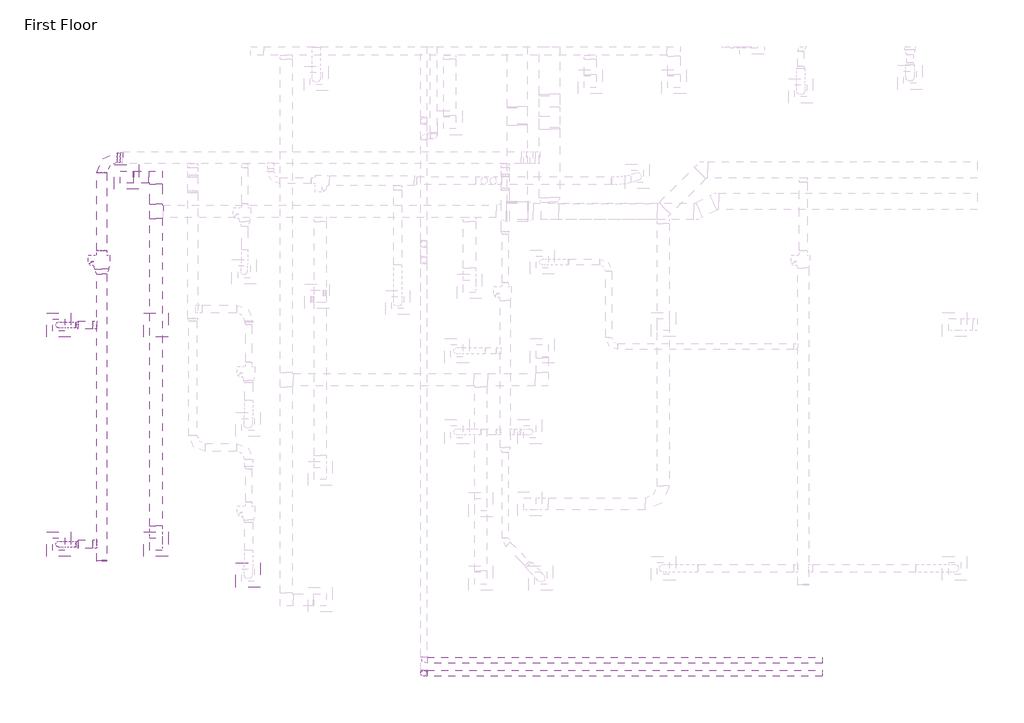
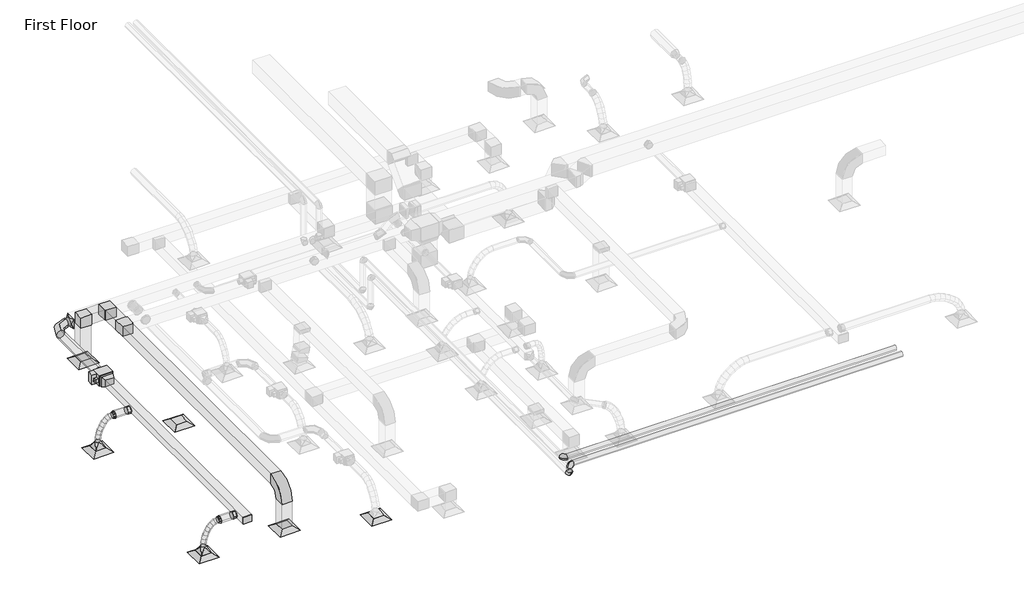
# One storey, part 1 of 61: 14 duct fittings, 12 duct segments, 6 air terminals, 3 pipe fittings, 3 pipe segments, 1 proxy.
"""IFC4 building model written with IfcOpenShell, lengths in millimetres."""

from ifc_helpers import new_model, si_unit, point, frame, frame_2d, origin, place, context, project, spatial, polyline, circle_curve, ellipse_curve, trimmed, segment, composite_curve, outline, extrude, transform, mapped, element, save
from ifc_brep_helpers import plane_surface, cylinder_surface, advanced_brep
from components import m_exhaust_grill_er_600_x_600_face_300_x_300_connection_ff221211, m_vav_unit_single_duct_250_mm_b14a1009, m_rectangular_elbow_mitered_standard_8eee5933, m_rectangular_elbow_radius_1_5_w_86011e9f, m_rectangular_endcap_standard_ecd4e432, m_rectangular_tee_standard_bf2a2b7f, m_rectangular_transition_angle_45_degree_a6690b9c, m_rectangular_to_round_transition_angle_45_degree_8f201c83, m_rectangular_to_round_transition_angle_45_degree_5bab159d, m_round_elbow_1_5_d_4a9a621c, m_round_takeoff_standard_8efdd074, m_round_transition_angle_45_degree_6d7b59ce, m_elbow_generic_standard_1652de39

model = new_model("IFC4")

# Units and contexts
model_context = context("Model", 3, world=origin())
ifc_project = project(units=[si_unit("LENGTHUNIT", "METRE", prefix="MILLI")], contexts=[model_context])

# Site, building, storey
site = spatial("IfcSite", under=ifc_project)
building = spatial("IfcBuilding", under=site)
storey = spatial("IfcBuildingStorey", under=building, Name="First Floor", Elevation=0.0)

# Air terminals
placement = place(None, origin())
m_exhaust_grill_er_600_x_600_face_300_x_300_connection_shape = m_exhaust_grill_er_600_x_600_face_300_x_300_connection_ff221211(model_context)
element("IfcAirTerminal", 1, ObjectType="M_Return Register : RR-600 x 600 Face 300 x 300 Connection", at=placement, inside=storey, context=model_context, shape_type="MappedRepresentation", body=[
    mapped(m_exhaust_grill_er_600_x_600_face_300_x_300_connection_shape, transform((-48781.3815051, 7725.6415931, 2680.0), x_axis=(1.0, 0.0, 0.0), y_axis=(0.0, 1.0, 0.0), z_axis=(0.0, 0.0, 1.0))),
])
element("IfcAirTerminal", 2, ObjectType="M_Return Register : RR-600 x 600 Face 300 x 300 Connection", at=placement, inside=storey, context=model_context, shape_type="MappedRepresentation", body=[
    mapped(m_exhaust_grill_er_600_x_600_face_300_x_300_connection_shape, transform((-48781.3815051, 2314.9069896, 2680.0), x_axis=(1.0, 0.0, 0.0), y_axis=(0.0, 1.0, 0.0), z_axis=(0.0, 0.0, 1.0))),
])
element("IfcAirTerminal", 3, ObjectType="M_Return Register : RR-600 x 600 Face 300 x 300 Connection", at=placement, inside=storey, context=model_context, shape_type="MappedRepresentation", body=[
    mapped(m_exhaust_grill_er_600_x_600_face_300_x_300_connection_shape, transform((-49507.3793889, 11382.4261895, 2680.0), x_axis=(1.0, 0.0, 0.0), y_axis=(0.0, 1.0, 0.0), z_axis=(0.0, 0.0, 1.0))),
])
element("IfcAirTerminal", 4, ObjectType="M_Supply Diffuser : SD-600 x 600 Face 300 x 300 Connection", at=placement, inside=storey, context=model_context, shape_type="MappedRepresentation", body=[
    mapped(m_exhaust_grill_er_600_x_600_face_300_x_300_connection_shape, transform((-51180.5120646, 2314.9069896, 2680.0), x_axis=(1.0, 0.0, 0.0), y_axis=(0.0, 1.0, 0.0), z_axis=(0.0, 0.0, 1.0))),
])
element("IfcAirTerminal", 5, ObjectType="M_Supply Diffuser : SD-600 x 600 Face 300 x 300 Connection", at=placement, inside=storey, context=model_context, shape_type="MappedRepresentation", body=[
    mapped(m_exhaust_grill_er_600_x_600_face_300_x_300_connection_shape, transform((-51180.5120646, 7725.6415931, 2680.0), x_axis=(1.0, 0.0, 0.0), y_axis=(0.0, 1.0, 0.0), z_axis=(0.0, 0.0, 1.0))),
])
element("IfcAirTerminal", 6, ObjectType="M_Supply Diffuser : SD-600 x 600 Face 300 x 300 Connection", at=placement, inside=storey, context=model_context, shape_type="MappedRepresentation", body=[
    mapped(m_exhaust_grill_er_600_x_600_face_300_x_300_connection_shape, transform((-46507.9513831, 1552.8513394, 2680.0), x_axis=(1.0, 0.0, 0.0), y_axis=(0.0, 1.0, 0.0), z_axis=(0.0, 0.0, 1.0))),
])

# Proxy
m_vav_unit_single_duct_250_mm_shape = m_vav_unit_single_duct_250_mm_b14a1009(model_context)
element("IfcBuildingElementProxy", 7, Name="M_VAV Unit - Single Duct : 250 mm", ObjectType="M_VAV Unit - Single Duct : 250 mm", at=placement, inside=storey, context=model_context, shape_type="MappedRepresentation", body=[
    mapped(m_vav_unit_single_duct_250_mm_shape, transform((-50117.67633, 9458.7329872, 3500.05), x_axis=(0.0, -1.0000000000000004, 0.0), y_axis=(1.0000000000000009, 0.0, 0.0), z_axis=(0.0, 0.0, 1.0000000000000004))),
])

# Duct fittings
m_rectangular_elbow_mitered_standard_shape = m_rectangular_elbow_mitered_standard_8eee5933(model_context)
element("IfcDuctFitting", 8, ObjectType="M_Rectangular Elbow - Mitered : Standard", at=placement, inside=storey, context=model_context, shape_type="MappedRepresentation", body=[
    mapped(m_rectangular_elbow_mitered_standard_shape, transform((-49507.3793889, 11382.4261895, 4000.0), x_axis=(0.0, 0.0, 1.0), y_axis=(1.0, 0.0, 0.0), z_axis=(0.0, 1.0, 0.0))),
])
element("IfcDuctFitting", 9, ObjectType="M_Rectangular Elbow - Mitered : Standard", at=placement, inside=storey, context=model_context, shape_type="MappedRepresentation", body=[
    mapped(m_rectangular_elbow_mitered_standard_shape, transform((-48781.3815051, 11382.4261895, 4000.0), x_axis=(0.0, 1.0, 0.0), y_axis=(-1.0, 0.0, 0.0), z_axis=(0.0, 0.0, 1.0))),
])
m_rectangular_elbow_radius_1_5_w_shape = m_rectangular_elbow_radius_1_5_w_86011e9f(model_context)
element("IfcDuctFitting", 10, ObjectType="M_Rectangular Elbow - Radius : 1.5 W", at=placement, inside=storey, context=model_context, shape_type="MappedRepresentation", body=[
    mapped(m_rectangular_elbow_radius_1_5_w_shape, transform((-48781.3815051, 2314.9069896, 4000.0), x_axis=(0.0, 0.0, 1.0), y_axis=(0.0, 1.0, 0.0), z_axis=(-1.0, 0.0, 0.0))),
])
m_rectangular_endcap_standard_shape = m_rectangular_endcap_standard_ecd4e432(model_context)
element("IfcDuctFitting", 11, ObjectType="M_Rectangular Endcap : Standard", at=placement, inside=storey, context=model_context, shape_type="MappedRepresentation", body=[
    mapped(m_rectangular_endcap_standard_shape, transform((-50117.67633, 1915.9329872, 3669.1), x_axis=(0.0, -1.0, 0.0), y_axis=(1.0, 0.0, 0.0), z_axis=(0.0, 0.0, 1.0))),
])
m_rectangular_tee_standard_shape = m_rectangular_tee_standard_bf2a2b7f(model_context)
element("IfcDuctFitting", 12, ObjectType="M_Rectangular Tee : Standard", at=placement, inside=storey, context=model_context, shape_type="MappedRepresentation", body=[
    mapped(m_rectangular_tee_standard_shape, transform((-48781.3815051, 10534.5124787, 4000.0), x_axis=(0.0, 1.0, 0.0), y_axis=(-1.0, 0.0, 0.0), z_axis=(0.0, 0.0, 1.0))),
])
m_rectangular_transition_angle_45_degree_shape = m_rectangular_transition_angle_45_degree_a6690b9c(model_context)
element("IfcDuctFitting", 13, ObjectType="M_Rectangular Transition - Angle : 45 Degree", at=placement, inside=storey, context=model_context, shape_type="MappedRepresentation", body=[
    mapped(m_rectangular_transition_angle_45_degree_shape, transform((-50117.67633, 9102.9329872, 3669.1), x_axis=(0.0, -1.0, 0.0), y_axis=(1.0, 0.0, 0.0), z_axis=(0.0, 0.0, 1.0))),
])
m_rectangular_to_round_transition_angle_45_degree_shape = m_rectangular_to_round_transition_angle_45_degree_8f201c83(model_context)
element("IfcDuctFitting", 14, ObjectType="M_Rectangular to Round Transition - Angle : 45 Degree", at=placement, inside=storey, context=model_context, shape_type="MappedRepresentation", body=[
    mapped(m_rectangular_to_round_transition_angle_45_degree_shape, transform((-51180.5120646, 7725.6415931, 2781.6), x_axis=(0.0, 0.0, 1.0), y_axis=(1.0, 0.0, 0.0), z_axis=(0.0, 1.0, 0.0))),
])
element("IfcDuctFitting", 15, ObjectType="M_Rectangular to Round Transition - Angle : 45 Degree", at=placement, inside=storey, context=model_context, shape_type="MappedRepresentation", body=[
    mapped(m_rectangular_to_round_transition_angle_45_degree_shape, transform((-51180.5120646, 2314.9069896, 2781.6), x_axis=(0.0, 0.0, 1.0), y_axis=(1.0, 0.0, 0.0), z_axis=(0.0, 1.0, 0.0))),
])
m_rectangular_to_round_transition_angle_45_degree_2_shape = m_rectangular_to_round_transition_angle_45_degree_5bab159d(model_context)
element("IfcDuctFitting", 16, ObjectType="M_Rectangular to Round Transition - Angle : 45 Degree", at=placement, inside=storey, context=model_context, shape_type="MappedRepresentation", body=[
    mapped(m_rectangular_to_round_transition_angle_45_degree_2_shape, transform((-49597.8923472, 11861.1885196, 3659.6), x_axis=(-1.0, 0.0, 0.0), y_axis=(0.0, -1.0, 0.0), z_axis=(0.0, 0.0, 1.0))),
])
m_round_elbow_1_5_d_shape = m_round_elbow_1_5_d_4a9a621c(model_context)
element("IfcDuctFitting", 17, ObjectType="M_Round Elbow : 1.5 D", at=placement, inside=storey, context=model_context, shape_type="MappedRepresentation", body=[
    mapped(m_round_elbow_1_5_d_shape, transform((-50116.82633, 11861.1885196, 3659.6), x_axis=(-1.0, 0.0, 0.0), y_axis=(0.0, -0.9999999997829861, -2.083333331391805e-05), z_axis=(0.0, -2.083333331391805e-05, 0.9999999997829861))),
])
m_round_takeoff_standard_shape = m_round_takeoff_standard_8efdd074(model_context)
element("IfcDuctFitting", 18, ObjectType="M_Round Takeoff : Standard", at=placement, inside=storey, context=model_context, shape_type="MappedRepresentation", body=[
    mapped(m_round_takeoff_standard_shape, transform((-50242.67633, 2314.9069896, 3619.1), x_axis=(-1.0, 0.0, 0.0), y_axis=(0.0, 1.0, 0.0), z_axis=(0.0, 0.0, -1.0))),
])
element("IfcDuctFitting", 19, ObjectType="M_Round Takeoff : Standard", at=placement, inside=storey, context=model_context, shape_type="MappedRepresentation", body=[
    mapped(m_round_takeoff_standard_shape, transform((-50242.67633, 7725.6415931, 3619.1), x_axis=(-1.0, 0.0, 0.0), y_axis=(0.0, 1.0, 0.0), z_axis=(0.0, 0.0, -1.0))),
])
m_round_transition_angle_45_degree_shape = m_round_transition_angle_45_degree_6d7b59ce(model_context)
element("IfcDuctFitting", 20, ObjectType="M_Round Transition - Angle : 45 Degree", at=placement, inside=storey, context=model_context, shape_type="MappedRepresentation", body=[
    mapped(m_round_transition_angle_45_degree_shape, transform((-50697.67633, 7725.6415931, 3619.1), x_axis=(-1.0, 0.0, 0.0), y_axis=(0.0, -1.0, 0.0), z_axis=(0.0, 0.0, 1.0))),
])
element("IfcDuctFitting", 21, ObjectType="M_Round Transition - Angle : 45 Degree", at=placement, inside=storey, context=model_context, shape_type="MappedRepresentation", body=[
    mapped(m_round_transition_angle_45_degree_shape, transform((-50697.67633, 2314.9069896, 3619.1), x_axis=(-1.0, 0.0, 0.0), y_axis=(0.0, -1.0, 0.0), z_axis=(0.0, 0.0, 1.0))),
])

# Duct segments
element("IfcDuctSegment", 22, ObjectType="Flex - Round", at=placement, inside=storey, context=model_context, shape_type="AdvancedBrep", body=[
    advanced_brep(
    [(-50758.0316691, 7650.6415931, 3619.1), (-50744.1168379, 7725.6415931, 3545.4021203), (-50758.0316691, 7800.6415931, 3619.1), (-50771.9465003, 7725.6415931, 3692.7978797), (-50850.8945934, 7650.6415931, 3601.5666337), (-50824.2503125, 7725.6415931, 3530.2721901), (-50850.8945934, 7800.6415931, 3601.5666337), (-50877.5388743, 7725.6415931, 3672.8610773), (-51180.5120646, 7650.6415931, 2962.6660172), (-51255.3147163, 7725.6415931, 2968.1032307), (-51180.5120646, 7800.6415931, 2962.6660172), (-51105.7094128, 7725.6415931, 2957.2288037), (-50933.821411, 7650.6415931, 3553.1245836), (-50887.434482, 7725.6415931, 3493.3628911), (-50933.821411, 7800.6415931, 3553.1245836), (-50980.2083401, 7725.6415931, 3612.886276), (-51006.058336, 7650.6415931, 3480.0109227), (-50947.5992499, 7725.6415931, 3432.4679065), (-51006.058336, 7800.6415931, 3480.0109227), (-51064.5174222, 7725.6415931, 3527.553939), (-51066.8515825, 7650.6415931, 3388.4627243), (-51001.2940271, 7725.6415931, 3351.6092519), (-51066.8515825, 7800.6415931, 3388.4627243), (-51132.4091379, 7725.6415931, 3425.3161967), (-51115.4473645, 7650.6415931, 3284.7170614), (-51045.5555953, 7725.6415931, 3257.1165707), (-51115.4473645, 7800.6415931, 3284.7170614), (-51185.3391337, 7725.6415931, 3312.317552), (-51151.0918962, 7650.6415931, 3175.0110071), (-51078.4134534, 7725.6415931, 3155.9872867), (-51151.0918962, 7800.6415931, 3175.0110071), (-51223.7703389, 7725.6415931, 3194.0347275), (-51173.0313915, 7650.6415931, 3065.5816347), (-51098.5698462, 7725.6415931, 3055.4516372), (-51173.0313915, 7800.6415931, 3065.5816347), (-51247.4929368, 7725.6415931, 3075.7116322)],
    [
        (0, 1, circle_curve(frame((-50758.0316691, 7725.6415931, 3619.1), z_axis=(0.9826383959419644, 0.0, 0.18553108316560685), x_axis=(0.0, -1.0, 0.0)), 75.0)),
        (1, 2, circle_curve(frame((-50758.0316691, 7725.6415931, 3619.1), z_axis=(0.9826383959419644, 0.0, 0.18553108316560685), x_axis=(0.0, -1.0, 0.0)), 75.0)),
        (2, 3, circle_curve(frame((-50758.0316691, 7725.6415931, 3619.1), z_axis=(0.9826383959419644, 0.0, 0.18553108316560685), x_axis=(0.0, -1.0, 0.0)), 75.0)),
        (3, 0, circle_curve(frame((-50758.0316691, 7725.6415931, 3619.1), z_axis=(0.9826383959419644, 0.0, 0.18553108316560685), x_axis=(0.0, -1.0, 0.0)), 75.0)),
        (0, 4),
        (4, 5, ellipse_curve(frame((-50850.8945934, 7725.6415931, 3601.5666337), z_axis=(0.9367222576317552, 0.0, 0.3500734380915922), x_axis=(0.3500734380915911, 0.0, -0.9367222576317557)), 76.1105472, 75.0)),
        (5, 1),
        (5, 6, ellipse_curve(frame((-50850.8945934, 7725.6415931, 3601.5666337), z_axis=(0.9367222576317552, 0.0, 0.3500734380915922), x_axis=(0.3500734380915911, 0.0, -0.9367222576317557)), 76.1105472, 75.0)),
        (6, 2),
        (6, 7, ellipse_curve(frame((-50850.8945934, 7725.6415931, 3601.5666337), z_axis=(0.9367222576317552, 0.0, 0.3500734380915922), x_axis=(0.3500734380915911, 0.0, -0.9367222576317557)), 76.1105472, 75.0)),
        (7, 3),
        (7, 4, ellipse_curve(frame((-50850.8945934, 7725.6415931, 3601.5666337), z_axis=(0.9367222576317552, 0.0, 0.3500734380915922), x_axis=(0.3500734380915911, 0.0, -0.9367222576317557)), 76.1105472, 75.0)),
        (8, 9, circle_curve(frame((-51180.5120646, 7725.6415931, 2962.6660172), z_axis=(-0.07249617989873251, 0.0, -0.9973686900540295), x_axis=(0.0, -1.0, 0.0)), 75.0)),
        (9, 10, circle_curve(frame((-51180.5120646, 7725.6415931, 2962.6660172), z_axis=(-0.07249617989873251, 0.0, -0.9973686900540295), x_axis=(0.0, -1.0, 0.0)), 75.0)),
        (10, 11, circle_curve(frame((-51180.5120646, 7725.6415931, 2962.6660172), z_axis=(-0.07249617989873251, 0.0, -0.9973686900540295), x_axis=(0.0, -1.0, 0.0)), 75.0)),
        (11, 8, circle_curve(frame((-51180.5120646, 7725.6415931, 2962.6660172), z_axis=(-0.07249617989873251, 0.0, -0.9973686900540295), x_axis=(0.0, -1.0, 0.0)), 75.0)),
        (4, 12),
        (12, 13, ellipse_curve(frame((-50933.821411, 7725.6415931, 3553.1245836), z_axis=(0.7899564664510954, 0.0, 0.6131629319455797), x_axis=(0.6131629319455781, 0.0, -0.7899564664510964)), 75.6518808, 75.0)),
        (13, 5),
        (13, 14, ellipse_curve(frame((-50933.821411, 7725.6415931, 3553.1245836), z_axis=(0.7899564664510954, 0.0, 0.6131629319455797), x_axis=(0.6131629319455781, 0.0, -0.7899564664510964)), 75.6518808, 75.0)),
        (14, 6),
        (14, 15, ellipse_curve(frame((-50933.821411, 7725.6415931, 3553.1245836), z_axis=(0.7899564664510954, 0.0, 0.6131629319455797), x_axis=(0.6131629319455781, 0.0, -0.7899564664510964)), 75.6518808, 75.0)),
        (15, 7),
        (15, 12, ellipse_curve(frame((-50933.821411, 7725.6415931, 3553.1245836), z_axis=(0.7899564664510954, 0.0, 0.6131629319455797), x_axis=(0.6131629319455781, 0.0, -0.7899564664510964)), 75.6518808, 75.0)),
        (12, 16),
        (16, 17, ellipse_curve(frame((-51006.058336, 7725.6415931, 3480.0109227), z_axis=(0.6309523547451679, 0.0, 0.7758215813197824), x_axis=(0.7758215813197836, 0.0, -0.6309523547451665)), 75.3511987, 75.0)),
        (17, 13),
        (17, 18, ellipse_curve(frame((-51006.058336, 7725.6415931, 3480.0109227), z_axis=(0.6309523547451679, 0.0, 0.7758215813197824), x_axis=(0.7758215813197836, 0.0, -0.6309523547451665)), 75.3511987, 75.0)),
        (18, 14),
        (18, 19, ellipse_curve(frame((-51006.058336, 7725.6415931, 3480.0109227), z_axis=(0.6309523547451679, 0.0, 0.7758215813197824), x_axis=(0.7758215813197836, 0.0, -0.6309523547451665)), 75.3511987, 75.0)),
        (19, 15),
        (19, 16, ellipse_curve(frame((-51006.058336, 7725.6415931, 3480.0109227), z_axis=(0.6309523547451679, 0.0, 0.7758215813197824), x_axis=(0.7758215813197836, 0.0, -0.6309523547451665)), 75.3511987, 75.0)),
        (16, 20),
        (20, 21, ellipse_curve(frame((-51066.8515825, 7725.6415931, 3388.4627243), z_axis=(0.49003241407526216, 0.0, 0.871704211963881), x_axis=(0.8717042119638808, 0.0, -0.49003241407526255)), 75.2061932, 75.0)),
        (21, 17),
        (21, 22, ellipse_curve(frame((-51066.8515825, 7725.6415931, 3388.4627243), z_axis=(0.49003241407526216, 0.0, 0.871704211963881), x_axis=(0.8717042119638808, 0.0, -0.49003241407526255)), 75.2061932, 75.0)),
        (22, 18),
        (22, 23, ellipse_curve(frame((-51066.8515825, 7725.6415931, 3388.4627243), z_axis=(0.49003241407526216, 0.0, 0.871704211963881), x_axis=(0.8717042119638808, 0.0, -0.49003241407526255)), 75.2061932, 75.0)),
        (23, 19),
        (23, 20, ellipse_curve(frame((-51066.8515825, 7725.6415931, 3388.4627243), z_axis=(0.49003241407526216, 0.0, 0.871704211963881), x_axis=(0.8717042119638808, 0.0, -0.49003241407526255)), 75.2061932, 75.0)),
        (20, 24),
        (24, 25, ellipse_curve(frame((-51115.4473645, 7725.6415931, 3284.7170614), z_axis=(0.36730048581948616, 0.0, 0.9301023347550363), x_axis=(0.930102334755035, 0.0, -0.3673004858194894)), 75.1441713, 75.0)),
        (25, 21),
        (25, 26, ellipse_curve(frame((-51115.4473645, 7725.6415931, 3284.7170614), z_axis=(0.36730048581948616, 0.0, 0.9301023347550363), x_axis=(0.930102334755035, 0.0, -0.3673004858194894)), 75.1441713, 75.0)),
        (26, 22),
        (26, 27, ellipse_curve(frame((-51115.4473645, 7725.6415931, 3284.7170614), z_axis=(0.36730048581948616, 0.0, 0.9301023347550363), x_axis=(0.930102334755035, 0.0, -0.3673004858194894)), 75.1441713, 75.0)),
        (27, 23),
        (27, 24, ellipse_curve(frame((-51115.4473645, 7725.6415931, 3284.7170614), z_axis=(0.36730048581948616, 0.0, 0.9301023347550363), x_axis=(0.930102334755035, 0.0, -0.3673004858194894)), 75.1441713, 75.0)),
        (24, 28),
        (28, 29, ellipse_curve(frame((-51151.0918962, 7725.6415931, 3175.0110071), z_axis=(0.2532210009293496, 0.0, 0.967408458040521), x_axis=(0.9674084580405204, 0.0, -0.2532210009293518)), 75.1269457, 75.0)),
        (29, 25),
        (29, 30, ellipse_curve(frame((-51151.0918962, 7725.6415931, 3175.0110071), z_axis=(0.2532210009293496, 0.0, 0.967408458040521), x_axis=(0.9674084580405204, 0.0, -0.2532210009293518)), 75.1269457, 75.0)),
        (30, 26),
        (30, 31, ellipse_curve(frame((-51151.0918962, 7725.6415931, 3175.0110071), z_axis=(0.2532210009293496, 0.0, 0.967408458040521), x_axis=(0.9674084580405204, 0.0, -0.2532210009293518)), 75.1269457, 75.0)),
        (31, 27),
        (31, 28, ellipse_curve(frame((-51151.0918962, 7725.6415931, 3175.0110071), z_axis=(0.2532210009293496, 0.0, 0.967408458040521), x_axis=(0.9674084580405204, 0.0, -0.2532210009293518)), 75.1269457, 75.0)),
        (28, 32),
        (32, 33, ellipse_curve(frame((-51173.0313915, 7725.6415931, 3065.5816347), z_axis=(0.13480162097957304, 0.0, 0.9908726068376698), x_axis=(0.9908726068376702, 0.0, -0.13480162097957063)), 75.1474456, 75.0)),
        (33, 29),
        (33, 34, ellipse_curve(frame((-51173.0313915, 7725.6415931, 3065.5816347), z_axis=(0.13480162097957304, 0.0, 0.9908726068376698), x_axis=(0.9908726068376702, 0.0, -0.13480162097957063)), 75.1474456, 75.0)),
        (34, 30),
        (34, 35, ellipse_curve(frame((-51173.0313915, 7725.6415931, 3065.5816347), z_axis=(0.13480162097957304, 0.0, 0.9908726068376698), x_axis=(0.9908726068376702, 0.0, -0.13480162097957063)), 75.1474456, 75.0)),
        (35, 31),
        (35, 32, ellipse_curve(frame((-51173.0313915, 7725.6415931, 3065.5816347), z_axis=(0.13480162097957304, 0.0, 0.9908726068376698), x_axis=(0.9908726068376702, 0.0, -0.13480162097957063)), 75.1474456, 75.0)),
        (32, 8),
        (11, 33),
        (10, 34),
        (9, 35),
    ],
    [
        plane_surface(frame((-50758.0316691, 7800.6415931, 3619.1), z_axis=(0.9826383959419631, 0.0, 0.1855310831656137), x_axis=(0.1855310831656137, 0.0, -0.9826383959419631))),
        cylinder_surface(frame((-50758.0316691, 7725.6415931, 3619.1), z_axis=(0.9826383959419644, 0.0, 0.18553108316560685), x_axis=(0.0, -1.0, 0.0)), 75.0),
        plane_surface(frame((-51180.5120646, 7800.6415931, 2962.6660172), z_axis=(-0.07249617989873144, 0.0, -0.9973686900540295), x_axis=(0.9973686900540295, 0.0, -0.07249617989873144))),
        cylinder_surface(frame((-50850.8945934, 7725.6415931, 3601.5666337), z_axis=(0.8634702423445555, 0.0, 0.5043997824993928), x_axis=(0.0, -1.0, 0.0)), 75.0),
        cylinder_surface(frame((-50933.821411, 7725.6415931, 3553.1245836), z_axis=(0.7028288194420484, 0.0, 0.7113590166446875), x_axis=(0.0, -1.0, 0.0)), 75.0),
        cylinder_surface(frame((-51006.058336, 7725.6415931, 3480.0109227), z_axis=(0.5531943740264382, 0.0, 0.8330522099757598), x_axis=(0.0, -1.0, 0.0)), 75.0),
        cylinder_surface(frame((-51066.8515825, 7725.6415931, 3388.4627243), z_axis=(0.4241834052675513, 0.0, 0.9055763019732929), x_axis=(0.0, -1.0, 0.0)), 75.0),
        cylinder_surface(frame((-51115.4473645, 7725.6415931, 3284.7170614), z_axis=(0.3090081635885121, 0.0, 0.9510593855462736), x_axis=(0.0, -1.0, 0.0)), 75.0),
        cylinder_surface(frame((-51151.0918962, 7725.6415931, 3175.0110071), z_axis=(0.19657807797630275, 0.0, 0.9804881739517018), x_axis=(0.0, -1.0, 0.0)), 75.0),
        cylinder_surface(frame((-51173.0313915, 7725.6415931, 3065.5816347), z_axis=(0.07249617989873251, 0.0, 0.9973686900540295), x_axis=(0.0, -1.0, 0.0)), 75.0),
    ],
    [
        (0, [[1, 2, 3, 4]]),
        (1, [[-1, 5, 6, 7]]),
        (1, [[-2, -7, 8, 9]]),
        (1, [[-3, -9, 10, 11]]),
        (1, [[-4, -11, 12, -5]]),
        (2, [[13, 14, 15, 16]]),
        (3, [[-6, 17, 18, 19]]),
        (3, [[-8, -19, 20, 21]]),
        (3, [[-10, -21, 22, 23]]),
        (3, [[-12, -23, 24, -17]]),
        (4, [[-18, 25, 26, 27]]),
        (4, [[-20, -27, 28, 29]]),
        (4, [[-22, -29, 30, 31]]),
        (4, [[-24, -31, 32, -25]]),
        (5, [[-26, 33, 34, 35]]),
        (5, [[-28, -35, 36, 37]]),
        (5, [[-30, -37, 38, 39]]),
        (5, [[-32, -39, 40, -33]]),
        (6, [[-34, 41, 42, 43]]),
        (6, [[-36, -43, 44, 45]]),
        (6, [[-38, -45, 46, 47]]),
        (6, [[-40, -47, 48, -41]]),
        (7, [[-42, 49, 50, 51]]),
        (7, [[-44, -51, 52, 53]]),
        (7, [[-46, -53, 54, 55]]),
        (7, [[-48, -55, 56, -49]]),
        (8, [[-50, 57, 58, 59]]),
        (8, [[-52, -59, 60, 61]]),
        (8, [[-54, -61, 62, 63]]),
        (8, [[-56, -63, 64, -57]]),
        (9, [[-58, 65, -16, 66]]),
        (9, [[-60, -66, -15, 67]]),
        (9, [[-62, -67, -14, 68]]),
        (9, [[-64, -68, -13, -65]]),
    ],
),
])
element("IfcDuctSegment", 23, ObjectType="Flex - Round", at=placement, inside=storey, context=model_context, shape_type="AdvancedBrep", body=[
    advanced_brep(
    [(-50758.0316691, 2239.9069896, 3619.1), (-50744.1168379, 2314.9069896, 3545.4021203), (-50758.0316691, 2389.9069896, 3619.1), (-50771.9465003, 2314.9069896, 3692.7978797), (-50850.8945934, 2239.9069896, 3601.5666337), (-50824.2503125, 2314.9069896, 3530.2721901), (-50850.8945934, 2389.9069896, 3601.5666337), (-50877.5388743, 2314.9069896, 3672.8610773), (-51180.5120646, 2239.9069896, 2962.6660172), (-51255.3147163, 2314.9069896, 2968.1032307), (-51180.5120646, 2389.9069896, 2962.6660172), (-51105.7094128, 2314.9069896, 2957.2288037), (-50933.821411, 2239.9069896, 3553.1245836), (-50887.434482, 2314.9069896, 3493.3628911), (-50933.821411, 2389.9069896, 3553.1245836), (-50980.2083401, 2314.9069896, 3612.886276), (-51006.058336, 2239.9069896, 3480.0109227), (-50947.5992499, 2314.9069896, 3432.4679065), (-51006.058336, 2389.9069896, 3480.0109227), (-51064.5174222, 2314.9069896, 3527.553939), (-51066.8515825, 2239.9069896, 3388.4627243), (-51001.2940271, 2314.9069896, 3351.6092519), (-51066.8515825, 2389.9069896, 3388.4627243), (-51132.4091379, 2314.9069896, 3425.3161967), (-51115.4473645, 2239.9069896, 3284.7170614), (-51045.5555953, 2314.9069896, 3257.1165707), (-51115.4473645, 2389.9069896, 3284.7170614), (-51185.3391337, 2314.9069896, 3312.317552), (-51151.0918962, 2239.9069896, 3175.0110071), (-51078.4134534, 2314.9069896, 3155.9872867), (-51151.0918962, 2389.9069896, 3175.0110071), (-51223.7703389, 2314.9069896, 3194.0347275), (-51173.0313915, 2239.9069896, 3065.5816347), (-51098.5698462, 2314.9069896, 3055.4516372), (-51173.0313915, 2389.9069896, 3065.5816347), (-51247.4929368, 2314.9069896, 3075.7116322)],
    [
        (0, 1, circle_curve(frame((-50758.0316691, 2314.9069896, 3619.1), z_axis=(0.9826383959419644, 0.0, 0.18553108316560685), x_axis=(0.0, -1.0, 0.0)), 75.0)),
        (1, 2, circle_curve(frame((-50758.0316691, 2314.9069896, 3619.1), z_axis=(0.9826383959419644, 0.0, 0.18553108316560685), x_axis=(0.0, -1.0, 0.0)), 75.0)),
        (2, 3, circle_curve(frame((-50758.0316691, 2314.9069896, 3619.1), z_axis=(0.9826383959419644, 0.0, 0.18553108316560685), x_axis=(0.0, -1.0, 0.0)), 75.0)),
        (3, 0, circle_curve(frame((-50758.0316691, 2314.9069896, 3619.1), z_axis=(0.9826383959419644, 0.0, 0.18553108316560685), x_axis=(0.0, -1.0, 0.0)), 75.0)),
        (0, 4),
        (4, 5, ellipse_curve(frame((-50850.8945934, 2314.9069896, 3601.5666337), z_axis=(0.9367222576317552, 0.0, 0.3500734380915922), x_axis=(0.3500734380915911, 0.0, -0.9367222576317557)), 76.1105472, 75.0)),
        (5, 1),
        (5, 6, ellipse_curve(frame((-50850.8945934, 2314.9069896, 3601.5666337), z_axis=(0.9367222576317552, 0.0, 0.3500734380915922), x_axis=(0.3500734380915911, 0.0, -0.9367222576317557)), 76.1105472, 75.0)),
        (6, 2),
        (6, 7, ellipse_curve(frame((-50850.8945934, 2314.9069896, 3601.5666337), z_axis=(0.9367222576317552, 0.0, 0.3500734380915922), x_axis=(0.3500734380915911, 0.0, -0.9367222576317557)), 76.1105472, 75.0)),
        (7, 3),
        (7, 4, ellipse_curve(frame((-50850.8945934, 2314.9069896, 3601.5666337), z_axis=(0.9367222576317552, 0.0, 0.3500734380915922), x_axis=(0.3500734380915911, 0.0, -0.9367222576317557)), 76.1105472, 75.0)),
        (8, 9, circle_curve(frame((-51180.5120646, 2314.9069896, 2962.6660172), z_axis=(-0.07249617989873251, 0.0, -0.9973686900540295), x_axis=(0.0, -1.0, 0.0)), 75.0)),
        (9, 10, circle_curve(frame((-51180.5120646, 2314.9069896, 2962.6660172), z_axis=(-0.07249617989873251, 0.0, -0.9973686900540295), x_axis=(0.0, -1.0, 0.0)), 75.0)),
        (10, 11, circle_curve(frame((-51180.5120646, 2314.9069896, 2962.6660172), z_axis=(-0.07249617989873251, 0.0, -0.9973686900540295), x_axis=(0.0, -1.0, 0.0)), 75.0)),
        (11, 8, circle_curve(frame((-51180.5120646, 2314.9069896, 2962.6660172), z_axis=(-0.07249617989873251, 0.0, -0.9973686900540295), x_axis=(0.0, -1.0, 0.0)), 75.0)),
        (4, 12),
        (12, 13, ellipse_curve(frame((-50933.821411, 2314.9069896, 3553.1245836), z_axis=(0.7899564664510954, 0.0, 0.6131629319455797), x_axis=(0.6131629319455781, 0.0, -0.7899564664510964)), 75.6518808, 75.0)),
        (13, 5),
        (13, 14, ellipse_curve(frame((-50933.821411, 2314.9069896, 3553.1245836), z_axis=(0.7899564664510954, 0.0, 0.6131629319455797), x_axis=(0.6131629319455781, 0.0, -0.7899564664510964)), 75.6518808, 75.0)),
        (14, 6),
        (14, 15, ellipse_curve(frame((-50933.821411, 2314.9069896, 3553.1245836), z_axis=(0.7899564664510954, 0.0, 0.6131629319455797), x_axis=(0.6131629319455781, 0.0, -0.7899564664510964)), 75.6518808, 75.0)),
        (15, 7),
        (15, 12, ellipse_curve(frame((-50933.821411, 2314.9069896, 3553.1245836), z_axis=(0.7899564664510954, 0.0, 0.6131629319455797), x_axis=(0.6131629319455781, 0.0, -0.7899564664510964)), 75.6518808, 75.0)),
        (12, 16),
        (16, 17, ellipse_curve(frame((-51006.058336, 2314.9069896, 3480.0109227), z_axis=(0.6309523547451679, 0.0, 0.7758215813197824), x_axis=(0.7758215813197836, 0.0, -0.6309523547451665)), 75.3511987, 75.0)),
        (17, 13),
        (17, 18, ellipse_curve(frame((-51006.058336, 2314.9069896, 3480.0109227), z_axis=(0.6309523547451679, 0.0, 0.7758215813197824), x_axis=(0.7758215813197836, 0.0, -0.6309523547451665)), 75.3511987, 75.0)),
        (18, 14),
        (18, 19, ellipse_curve(frame((-51006.058336, 2314.9069896, 3480.0109227), z_axis=(0.6309523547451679, 0.0, 0.7758215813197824), x_axis=(0.7758215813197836, 0.0, -0.6309523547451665)), 75.3511987, 75.0)),
        (19, 15),
        (19, 16, ellipse_curve(frame((-51006.058336, 2314.9069896, 3480.0109227), z_axis=(0.6309523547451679, 0.0, 0.7758215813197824), x_axis=(0.7758215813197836, 0.0, -0.6309523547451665)), 75.3511987, 75.0)),
        (16, 20),
        (20, 21, ellipse_curve(frame((-51066.8515825, 2314.9069896, 3388.4627243), z_axis=(0.49003241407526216, 0.0, 0.871704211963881), x_axis=(0.8717042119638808, 0.0, -0.49003241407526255)), 75.2061932, 75.0)),
        (21, 17),
        (21, 22, ellipse_curve(frame((-51066.8515825, 2314.9069896, 3388.4627243), z_axis=(0.49003241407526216, 0.0, 0.871704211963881), x_axis=(0.8717042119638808, 0.0, -0.49003241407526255)), 75.2061932, 75.0)),
        (22, 18),
        (22, 23, ellipse_curve(frame((-51066.8515825, 2314.9069896, 3388.4627243), z_axis=(0.49003241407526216, 0.0, 0.871704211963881), x_axis=(0.8717042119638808, 0.0, -0.49003241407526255)), 75.2061932, 75.0)),
        (23, 19),
        (23, 20, ellipse_curve(frame((-51066.8515825, 2314.9069896, 3388.4627243), z_axis=(0.49003241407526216, 0.0, 0.871704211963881), x_axis=(0.8717042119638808, 0.0, -0.49003241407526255)), 75.2061932, 75.0)),
        (20, 24),
        (24, 25, ellipse_curve(frame((-51115.4473645, 2314.9069896, 3284.7170614), z_axis=(0.36730048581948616, 0.0, 0.9301023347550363), x_axis=(0.930102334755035, 0.0, -0.3673004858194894)), 75.1441713, 75.0)),
        (25, 21),
        (25, 26, ellipse_curve(frame((-51115.4473645, 2314.9069896, 3284.7170614), z_axis=(0.36730048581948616, 0.0, 0.9301023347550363), x_axis=(0.930102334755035, 0.0, -0.3673004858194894)), 75.1441713, 75.0)),
        (26, 22),
        (26, 27, ellipse_curve(frame((-51115.4473645, 2314.9069896, 3284.7170614), z_axis=(0.36730048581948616, 0.0, 0.9301023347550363), x_axis=(0.930102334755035, 0.0, -0.3673004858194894)), 75.1441713, 75.0)),
        (27, 23),
        (27, 24, ellipse_curve(frame((-51115.4473645, 2314.9069896, 3284.7170614), z_axis=(0.36730048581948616, 0.0, 0.9301023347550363), x_axis=(0.930102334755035, 0.0, -0.3673004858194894)), 75.1441713, 75.0)),
        (24, 28),
        (28, 29, ellipse_curve(frame((-51151.0918962, 2314.9069896, 3175.0110071), z_axis=(0.2532210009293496, 0.0, 0.967408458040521), x_axis=(0.9674084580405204, 0.0, -0.2532210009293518)), 75.1269457, 75.0)),
        (29, 25),
        (29, 30, ellipse_curve(frame((-51151.0918962, 2314.9069896, 3175.0110071), z_axis=(0.2532210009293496, 0.0, 0.967408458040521), x_axis=(0.9674084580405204, 0.0, -0.2532210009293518)), 75.1269457, 75.0)),
        (30, 26),
        (30, 31, ellipse_curve(frame((-51151.0918962, 2314.9069896, 3175.0110071), z_axis=(0.2532210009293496, 0.0, 0.967408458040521), x_axis=(0.9674084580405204, 0.0, -0.2532210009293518)), 75.1269457, 75.0)),
        (31, 27),
        (31, 28, ellipse_curve(frame((-51151.0918962, 2314.9069896, 3175.0110071), z_axis=(0.2532210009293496, 0.0, 0.967408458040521), x_axis=(0.9674084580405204, 0.0, -0.2532210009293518)), 75.1269457, 75.0)),
        (28, 32),
        (32, 33, ellipse_curve(frame((-51173.0313915, 2314.9069896, 3065.5816347), z_axis=(0.13480162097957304, 0.0, 0.9908726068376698), x_axis=(0.9908726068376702, 0.0, -0.13480162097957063)), 75.1474456, 75.0)),
        (33, 29),
        (33, 34, ellipse_curve(frame((-51173.0313915, 2314.9069896, 3065.5816347), z_axis=(0.13480162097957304, 0.0, 0.9908726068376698), x_axis=(0.9908726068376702, 0.0, -0.13480162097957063)), 75.1474456, 75.0)),
        (34, 30),
        (34, 35, ellipse_curve(frame((-51173.0313915, 2314.9069896, 3065.5816347), z_axis=(0.13480162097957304, 0.0, 0.9908726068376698), x_axis=(0.9908726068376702, 0.0, -0.13480162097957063)), 75.1474456, 75.0)),
        (35, 31),
        (35, 32, ellipse_curve(frame((-51173.0313915, 2314.9069896, 3065.5816347), z_axis=(0.13480162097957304, 0.0, 0.9908726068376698), x_axis=(0.9908726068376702, 0.0, -0.13480162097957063)), 75.1474456, 75.0)),
        (32, 8),
        (11, 33),
        (10, 34),
        (9, 35),
    ],
    [
        plane_surface(frame((-50758.0316691, 2389.9069896, 3619.1), z_axis=(0.9826383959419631, 0.0, 0.1855310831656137), x_axis=(0.1855310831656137, 0.0, -0.9826383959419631))),
        cylinder_surface(frame((-50758.0316691, 2314.9069896, 3619.1), z_axis=(0.9826383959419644, 0.0, 0.18553108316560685), x_axis=(0.0, -1.0, 0.0)), 75.0),
        plane_surface(frame((-51180.5120646, 2389.9069896, 2962.6660172), z_axis=(-0.07249617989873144, 0.0, -0.9973686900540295), x_axis=(0.9973686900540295, 0.0, -0.07249617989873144))),
        cylinder_surface(frame((-50850.8945934, 2314.9069896, 3601.5666337), z_axis=(0.8634702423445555, 0.0, 0.5043997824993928), x_axis=(0.0, -1.0, 0.0)), 75.0),
        cylinder_surface(frame((-50933.821411, 2314.9069896, 3553.1245836), z_axis=(0.7028288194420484, 0.0, 0.7113590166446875), x_axis=(0.0, -1.0, 0.0)), 75.0),
        cylinder_surface(frame((-51006.058336, 2314.9069896, 3480.0109227), z_axis=(0.5531943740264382, 0.0, 0.8330522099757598), x_axis=(0.0, -1.0, 0.0)), 75.0),
        cylinder_surface(frame((-51066.8515825, 2314.9069896, 3388.4627243), z_axis=(0.4241834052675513, 0.0, 0.9055763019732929), x_axis=(0.0, -1.0, 0.0)), 75.0),
        cylinder_surface(frame((-51115.4473645, 2314.9069896, 3284.7170614), z_axis=(0.3090081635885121, 0.0, 0.9510593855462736), x_axis=(0.0, -1.0, 0.0)), 75.0),
        cylinder_surface(frame((-51151.0918962, 2314.9069896, 3175.0110071), z_axis=(0.19657807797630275, 0.0, 0.9804881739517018), x_axis=(0.0, -1.0, 0.0)), 75.0),
        cylinder_surface(frame((-51173.0313915, 2314.9069896, 3065.5816347), z_axis=(0.07249617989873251, 0.0, 0.9973686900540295), x_axis=(0.0, -1.0, 0.0)), 75.0),
    ],
    [
        (0, [[1, 2, 3, 4]]),
        (1, [[-1, 5, 6, 7]]),
        (1, [[-2, -7, 8, 9]]),
        (1, [[-3, -9, 10, 11]]),
        (1, [[-4, -11, 12, -5]]),
        (2, [[13, 14, 15, 16]]),
        (3, [[-6, 17, 18, 19]]),
        (3, [[-8, -19, 20, 21]]),
        (3, [[-10, -21, 22, 23]]),
        (3, [[-12, -23, 24, -17]]),
        (4, [[-18, 25, 26, 27]]),
        (4, [[-20, -27, 28, 29]]),
        (4, [[-22, -29, 30, 31]]),
        (4, [[-24, -31, 32, -25]]),
        (5, [[-26, 33, 34, 35]]),
        (5, [[-28, -35, 36, 37]]),
        (5, [[-30, -37, 38, 39]]),
        (5, [[-32, -39, 40, -33]]),
        (6, [[-34, 41, 42, 43]]),
        (6, [[-36, -43, 44, 45]]),
        (6, [[-38, -45, 46, 47]]),
        (6, [[-40, -47, 48, -41]]),
        (7, [[-42, 49, 50, 51]]),
        (7, [[-44, -51, 52, 53]]),
        (7, [[-46, -53, 54, 55]]),
        (7, [[-48, -55, 56, -49]]),
        (8, [[-50, 57, 58, 59]]),
        (8, [[-52, -59, 60, 61]]),
        (8, [[-54, -61, 62, 63]]),
        (8, [[-56, -63, 64, -57]]),
        (9, [[-58, 65, -16, 66]]),
        (9, [[-60, -66, -15, 67]]),
        (9, [[-62, -67, -14, 68]]),
        (9, [[-64, -68, -13, -65]]),
    ],
),
])
element("IfcDuctSegment", 24, ObjectType="Mitered Elbows / Taps", at=placement, inside=storey, context=model_context, shape_type="SweptSolid", body=[
    extrude(outline(polyline([(-50242.67633, 8982.2223091), (-49992.67633, 8982.2223091), (-49992.67633, 1915.9329872), (-50242.67633, 1915.9329872), (-50242.67633, 8982.2223091)])), frame((0.0, 0.0, 3569.1), z_axis=(0.0, 0.0, 1.0), x_axis=(1.0, 0.0, 0.0)), (0.0, 0.0, 1.0), 200.0),
])
element("IfcDuctSegment", 25, ObjectType="Mitered Elbows / Taps", at=placement, inside=storey, context=model_context, shape_type="SweptSolid", body=[
    extrude(outline(polyline([(-48631.3815051, 10709.5124787), (-48931.3815051, 10709.5124787), (-48931.3815051, 11207.4261895), (-48631.3815051, 11207.4261895), (-48631.3815051, 10709.5124787)])), frame((0.0, 0.0, 3850.0), z_axis=(0.0, 0.0, 1.0), x_axis=(1.0, 0.0, 0.0)), (0.0, 0.0, 1.0), 300.0),
])
element("IfcDuctSegment", 26, ObjectType="Mitered Elbows / Taps", at=placement, inside=storey, context=model_context, shape_type="SweptSolid", body=[
    extrude(outline(polyline([(-49332.3793889, 11232.4261895), (-49332.3793889, 11532.4261895), (-48956.3815051, 11532.4261895), (-48956.3815051, 11232.4261895), (-49332.3793889, 11232.4261895)])), frame((0.0, 0.0, 3850.0), z_axis=(0.0, 0.0, 1.0), x_axis=(1.0, 0.0, 0.0)), (0.0, 0.0, 1.0), 300.0),
])
element("IfcDuctSegment", 27, ObjectType="Mitered Elbows / Taps", at=placement, inside=storey, context=model_context, shape_type="SweptSolid", body=[
    extrude(outline(polyline([(-49357.3793889, 11532.4261895), (-49357.3793889, 11232.4261895), (-49657.3793889, 11232.4261895), (-49657.3793889, 11532.4261895), (-49357.3793889, 11532.4261895)])), frame((0.0, 0.0, 2781.6), z_axis=(0.0, 0.0, 1.0), x_axis=(1.0, 0.0, 0.0)), (0.0, 0.0, 1.0), 1043.4),
])
element("IfcDuctSegment", 28, ObjectType="Radius Elbows / Taps", at=placement, inside=storey, context=model_context, shape_type="SweptSolid", body=[
    extrude(outline(polyline([(-48931.3815051, 2464.9069896), (-48631.3815051, 2464.9069896), (-48631.3815051, 2164.9069896), (-48931.3815051, 2164.9069896), (-48931.3815051, 2464.9069896)])), frame((0.0, 0.0, 2781.6), z_axis=(0.0, 0.0, 1.0), x_axis=(1.0, 0.0, 0.0)), (0.0, 0.0, 1.0), 768.4),
])
element("IfcDuctSegment", 29, ObjectType="Radius Elbows / Taps", at=placement, inside=storey, context=model_context, shape_type="SweptSolid", body=[
    extrude(outline(polyline([(-48631.3815051, 2764.9069896), (-48931.3815051, 2764.9069896), (-48931.3815051, 10359.5124787), (-48631.3815051, 10359.5124787), (-48631.3815051, 2764.9069896)])), frame((0.0, 0.0, 3850.0), z_axis=(0.0, 0.0, 1.0), x_axis=(1.0, 0.0, 0.0)), (0.0, 0.0, 1.0), 300.0),
])
element("IfcDuctSegment", 30, ObjectType="Taps", at=placement, inside=storey, context=model_context, shape_type="SweptSolid", body=[
    extrude(outline(composite_curve([segment(trimmed(circle_curve(frame_2d((2314.9069896, 3619.1)), 100.0), [point((2414.9069896, 3619.1))], [point((2314.9069896, 3519.1))], False, "CARTESIAN"), True, "CONTINUOUS"), segment(trimmed(circle_curve(frame_2d((2314.9069896, 3619.1)), 100.0), [point((2314.9069896, 3519.1))], [point((2214.9069896, 3619.1))], False, "CARTESIAN"), True, "CONTINUOUS"), segment(trimmed(circle_curve(frame_2d((2314.9069896, 3619.1)), 100.0), [point((2214.9069896, 3619.1))], [point((2314.9069896, 3719.1))], False, "CARTESIAN"), True, "CONTINUOUS"), segment(trimmed(circle_curve(frame_2d((2314.9069896, 3619.1)), 100.0), [point((2314.9069896, 3719.1))], [point((2414.9069896, 3619.1))], False, "CARTESIAN"), True, "CONTINUOUS")], self_intersect=False)), frame((-50697.67633, 0.0, 0.0), z_axis=(1.0, 0.0, 0.0), x_axis=(0.0, 1.0, 0.0)), (0.0, 0.0, 1.0), 355.0),
])
element("IfcDuctSegment", 31, ObjectType="Taps", at=placement, inside=storey, context=model_context, shape_type="SweptSolid", body=[
    extrude(outline(composite_curve([segment(trimmed(circle_curve(frame_2d((7725.6415931, 3619.1)), 100.0), [point((7825.6415931, 3619.1))], [point((7725.6415931, 3519.1))], False, "CARTESIAN"), True, "CONTINUOUS"), segment(trimmed(circle_curve(frame_2d((7725.6415931, 3619.1)), 100.0), [point((7725.6415931, 3519.1))], [point((7625.6415931, 3619.1))], False, "CARTESIAN"), True, "CONTINUOUS"), segment(trimmed(circle_curve(frame_2d((7725.6415931, 3619.1)), 100.0), [point((7625.6415931, 3619.1))], [point((7725.6415931, 3719.1))], False, "CARTESIAN"), True, "CONTINUOUS"), segment(trimmed(circle_curve(frame_2d((7725.6415931, 3619.1)), 100.0), [point((7725.6415931, 3719.1))], [point((7825.6415931, 3619.1))], False, "CARTESIAN"), True, "CONTINUOUS")], self_intersect=False)), frame((-50697.67633, 0.0, 0.0), z_axis=(1.0, 0.0, 0.0), x_axis=(0.0, 1.0, 0.0)), (0.0, 0.0, 1.0), 355.0),
])
element("IfcDuctSegment", 32, ObjectType="Taps", at=placement, inside=storey, context=model_context, shape_type="SweptSolid", body=[
    extrude(outline(composite_curve([segment(trimmed(circle_curve(frame_2d((0.0, 125.0)), 125.0), [point((0.0, 250.0))], [point((125.0, 125.0))], False, "CARTESIAN"), True, "CONTINUOUS"), segment(trimmed(circle_curve(frame_2d((0.0, 125.0)), 125.0), [point((125.0, 125.0))], [point((0.0, 0.0))], False, "CARTESIAN"), True, "CONTINUOUS"), segment(trimmed(circle_curve(frame_2d((0.0, 125.0)), 125.0), [point((0.0, 0.0))], [point((-125.0, 125.0))], False, "CARTESIAN"), True, "CONTINUOUS"), segment(trimmed(circle_curve(frame_2d((0.0, 125.0)), 125.0), [point((-125.0, 125.0))], [point((0.0, 250.0))], False, "CARTESIAN"), True, "CONTINUOUS")], self_intersect=False)), frame((-50241.82633, 9560.3329872, 3659.575), z_axis=(0.0, 0.9999999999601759, 8.92460504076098e-06), x_axis=(0.0, -8.92460504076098e-06, 0.9999999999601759)), (0.0, 0.0, 1.0), 1925.8555326),
])
element("IfcDuctSegment", 33, ObjectType="Taps", at=placement, inside=storey, context=model_context, shape_type="SweptSolid", body=[
    extrude(outline(composite_curve([segment(trimmed(circle_curve(frame_2d((11861.1885196, 3659.6)), 125.0), [point((11736.1885196, 3659.6))], [point((11861.1885196, 3784.6))], False, "CARTESIAN"), True, "CONTINUOUS"), segment(trimmed(circle_curve(frame_2d((11861.1885196, 3659.6)), 125.0), [point((11861.1885196, 3784.6))], [point((11986.1885196, 3659.6))], False, "CARTESIAN"), True, "CONTINUOUS"), segment(trimmed(circle_curve(frame_2d((11861.1885196, 3659.6)), 125.0), [point((11986.1885196, 3659.6))], [point((11861.1885196, 3534.6))], False, "CARTESIAN"), True, "CONTINUOUS"), segment(trimmed(circle_curve(frame_2d((11861.1885196, 3659.6)), 125.0), [point((11861.1885196, 3534.6))], [point((11736.1885196, 3659.6))], False, "CARTESIAN"), True, "CONTINUOUS")], self_intersect=False)), frame((-49741.82633, 0.0, 0.0), z_axis=(1.0, 0.0, 0.0), x_axis=(0.0, 1.0, 0.0)), (0.0, 0.0, 1.0), 83.5786438),
])

# Pipe fittings
m_elbow_generic_standard_shape = m_elbow_generic_standard_1652de39(model_context)
element("IfcPipeFitting", 34, ObjectType="M_Elbow - Generic : Standard", at=placement, inside=storey, context=model_context, shape_type="MappedRepresentation", body=[
    mapped(m_elbow_generic_standard_shape, transform((-42173.6892157, -872.4739044, 4300.0), x_axis=(-1.0, 0.0, 0.0), y_axis=(0.0, 0.0, -1.0), z_axis=(0.0, -1.0, 0.0))),
])
element("IfcPipeFitting", 35, ObjectType="M_Elbow - Generic : Standard", at=placement, inside=storey, context=model_context, shape_type="MappedRepresentation", body=[
    mapped(m_elbow_generic_standard_shape, transform((-42173.6892157, -872.4739044, 4000.0), x_axis=(0.0, 0.0, -1.0), y_axis=(0.0, 1.0, 0.0), z_axis=(1.0, 0.0, 0.0))),
])
element("IfcPipeFitting", 36, ObjectType="M_Elbow - Generic : Standard", at=placement, inside=storey, context=model_context, shape_type="MappedRepresentation", body=[
    mapped(m_elbow_generic_standard_shape, transform((-42173.6892157, -549.6637695, 4300.0), x_axis=(0.0, -1.0, 0.0), y_axis=(1.0, 0.0, 0.0), z_axis=(0.0, 0.0, 1.0))),
])

# Pipe segments
element("IfcPipeSegment", 37, ObjectType="Standard", at=placement, inside=storey, context=model_context, shape_type="SweptSolid", body=[
    extrude(outline(composite_curve([segment(trimmed(circle_curve(frame_2d((-872.4739044, 4300.0)), 76.2), [point((-796.2739044, 4300.0))], [point((-872.4739044, 4223.8))], False, "CARTESIAN"), True, "CONTINUOUS"), segment(trimmed(circle_curve(frame_2d((-872.4739044, 4300.0)), 76.2), [point((-872.4739044, 4223.8))], [point((-948.6739044, 4300.0))], False, "CARTESIAN"), True, "CONTINUOUS"), segment(trimmed(circle_curve(frame_2d((-872.4739044, 4300.0)), 76.2), [point((-948.6739044, 4300.0))], [point((-872.4739044, 4376.2))], False, "CARTESIAN"), True, "CONTINUOUS"), segment(trimmed(circle_curve(frame_2d((-872.4739044, 4300.0)), 76.2), [point((-872.4739044, 4376.2))], [point((-796.2739044, 4300.0))], False, "CARTESIAN"), True, "CONTINUOUS")], self_intersect=False)), frame((-42089.5517157, 0.0, 0.0), z_axis=(1.0, 0.0, 0.0), x_axis=(0.0, 1.0, 0.0)), (0.0, 0.0, 1.0), 9751.725),
])
element("IfcPipeSegment", 38, ObjectType="Standard", at=placement, inside=storey, context=model_context, shape_type="SweptSolid", body=[
    extrude(outline(composite_curve([segment(trimmed(circle_curve(frame_2d((-42173.6892157, -872.4739044)), 76.2), [point((-42097.4892157, -872.4739044))], [point((-42173.6892157, -948.6739044))], False, "CARTESIAN"), True, "CONTINUOUS"), segment(trimmed(circle_curve(frame_2d((-42173.6892157, -872.4739044)), 76.2), [point((-42173.6892157, -948.6739044))], [point((-42249.8892157, -872.4739044))], False, "CARTESIAN"), True, "CONTINUOUS"), segment(trimmed(circle_curve(frame_2d((-42173.6892157, -872.4739044)), 76.2), [point((-42249.8892157, -872.4739044))], [point((-42173.6892157, -796.2739044))], False, "CARTESIAN"), True, "CONTINUOUS"), segment(trimmed(circle_curve(frame_2d((-42173.6892157, -872.4739044)), 76.2), [point((-42173.6892157, -796.2739044))], [point((-42097.4892157, -872.4739044))], False, "CARTESIAN"), True, "CONTINUOUS")], self_intersect=False)), frame((0.0, 0.0, 4084.1375), z_axis=(0.0, 0.0, 1.0), x_axis=(1.0, 0.0, 0.0)), (0.0, 0.0, 1.0), 131.725),
])
element("IfcPipeSegment", 39, ObjectType="Standard", at=placement, inside=storey, context=model_context, shape_type="SweptSolid", body=[
    extrude(outline(composite_curve([segment(trimmed(circle_curve(frame_2d((-549.6637695, 4300.0)), 76.2), [point((-473.4637695, 4300.0))], [point((-549.6637695, 4223.8))], False, "CARTESIAN"), True, "CONTINUOUS"), segment(trimmed(circle_curve(frame_2d((-549.6637695, 4300.0)), 76.2), [point((-549.6637695, 4223.8))], [point((-625.8637695, 4300.0))], False, "CARTESIAN"), True, "CONTINUOUS"), segment(trimmed(circle_curve(frame_2d((-549.6637695, 4300.0)), 76.2), [point((-625.8637695, 4300.0))], [point((-549.6637695, 4376.2))], False, "CARTESIAN"), True, "CONTINUOUS"), segment(trimmed(circle_curve(frame_2d((-549.6637695, 4300.0)), 76.2), [point((-549.6637695, 4376.2))], [point((-473.4637695, 4300.0))], False, "CARTESIAN"), True, "CONTINUOUS")], self_intersect=False)), frame((-42089.5517157, 0.0, 0.0), z_axis=(1.0, 0.0, 0.0), x_axis=(0.0, 1.0, 0.0)), (0.0, 0.0, 1.0), 9751.725),
])

save(model, "model.ifc")
